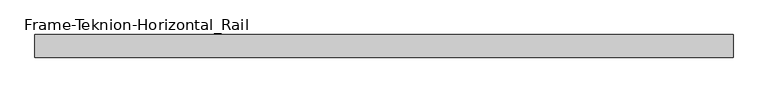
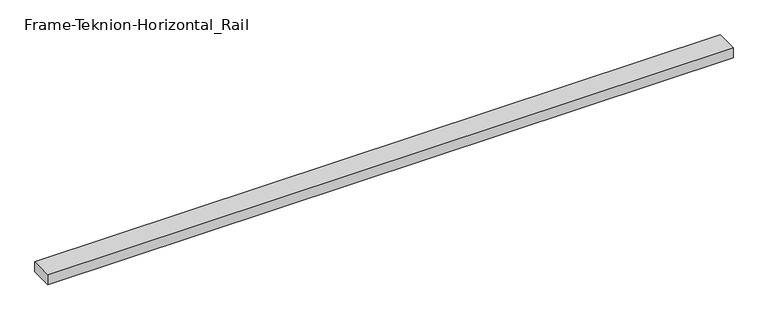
"""IFC4 building model written with IfcOpenShell, lengths in millimetres: proxy geometry, Frame-Teknion-Horizontal_Rail : FPKK."""

from ifc_helpers import new_model, si_unit, frame, origin, place, context, project, spatial, polyline, outline, extrude, source, transform, mapped, element, save


def frame_teknion_horizontal_rail_5dd37d62(model_context):
    return source(origin(), model_context, "Body", "SweptSolid", [
        extrude(outline(polyline([(-900.4101562, -29.2199219), (-900.4101562, 29.2199219), (900.4101563, 29.2199219), (900.4101563, -29.2199219), (-900.4101562, -29.2199219)])), frame((0.0, 0.0, -13.9898438), z_axis=(0.0, 0.0, 1.0), x_axis=(1.0, 0.0, 0.0)), (0.0, 0.0, 1.0), 27.9796875),
    ])


if __name__ == "__main__":
    model = new_model("IFC4")
    model_context = context("Model", 3, world=origin())
    ifc_project = project(units=[si_unit("LENGTHUNIT", "METRE", prefix="MILLI")], contexts=[model_context])
    site = spatial("IfcSite", under=ifc_project)
    building = spatial("IfcBuilding", under=site)
    placement = place(None, origin())
    frame_teknion_horizontal_rail_shape = frame_teknion_horizontal_rail_5dd37d62(model_context)
    element("IfcBuildingElementProxy", 1, Name="Frame-Teknion-Horizontal_Rail : FPKK", ObjectType="Frame-Teknion-Horizontal_Rail : FPKK", at=placement, inside=building, context=model_context, shape_type="MappedRepresentation", body=[
        mapped(frame_teknion_horizontal_rail_shape, transform((0.0, 0.0, 0.0), x_axis=(1.0, 0.0, 0.0), y_axis=(0.0, 1.0, 0.0), z_axis=(0.0, 0.0, 1.0))),
    ])
    save(model, "model.ifc")
